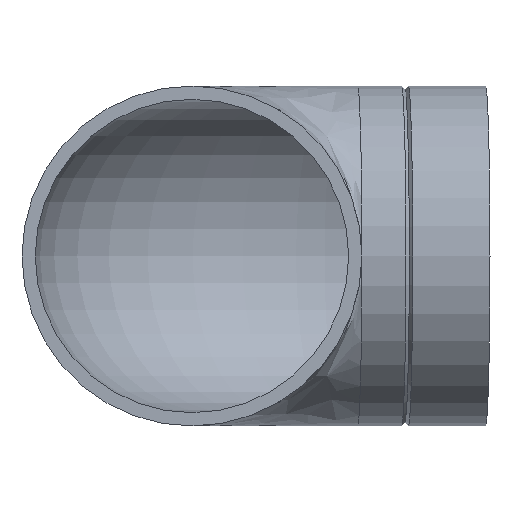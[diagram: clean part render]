
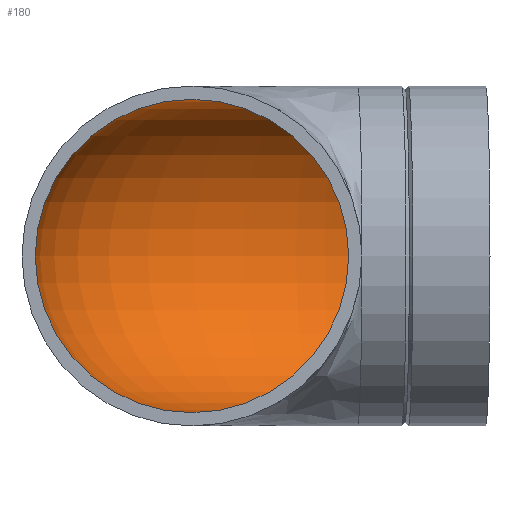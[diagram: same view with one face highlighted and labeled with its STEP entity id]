
A CAD part, front view. The second image highlights one B-rep face of the part: STEP entity #180.
In plain terms, the highlighted toroidal (fillet/blend) face has major radius 55 mm and minor radius 50.7 mm.
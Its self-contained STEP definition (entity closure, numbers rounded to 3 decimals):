
#14=TOROIDAL_SURFACE($,#211,55.,50.7);
#34=FACE_BOUND($,#76,.T.);
#53=FACE_OUTER_BOUND($,#75,.T.);
#75=EDGE_LOOP($,(#152));
#76=EDGE_LOOP($,(#153));
#97=CIRCLE($,#208,50.7);
#99=CIRCLE($,#212,50.7);
#113=VERTEX_POINT($,#354);
#114=VERTEX_POINT($,#359);
#128=EDGE_CURVE($,#113,#113,#97,.T.);
#130=EDGE_CURVE($,#114,#114,#99,.T.);
#152=ORIENTED_EDGE($,*,*,#130,.T.);
#153=ORIENTED_EDGE($,*,*,#128,.F.);
#180=ADVANCED_FACE($,(#53,#34),#14,.F.);
#208=AXIS2_PLACEMENT_3D($,#355,#259,#260);
#211=AXIS2_PLACEMENT_3D($,#358,#265,#266);
#212=AXIS2_PLACEMENT_3D($,#360,#267,#268);
#259=DIRECTION('center_axis',(-1.,-0.026,0.));
#260=DIRECTION('ref_axis',(0.026,-1.,0.));
#265=DIRECTION('center_axis',(0.,0.,-1.));
#266=DIRECTION('ref_axis',(-1.,0.,0.));
#267=DIRECTION('center_axis',(0.,-1.,0.));
#268=DIRECTION('ref_axis',(1.,0.,0.));
#354=CARTESIAN_POINT('',(52.233,145.683,0.));
#355=CARTESIAN_POINT('Origin',(53.56,95.,0.));
#358=CARTESIAN_POINT('Origin',(55.,40.019,0.));
#359=CARTESIAN_POINT('',(-50.7,40.019,0.));
#360=CARTESIAN_POINT('Origin',(0.,40.019,0.));
